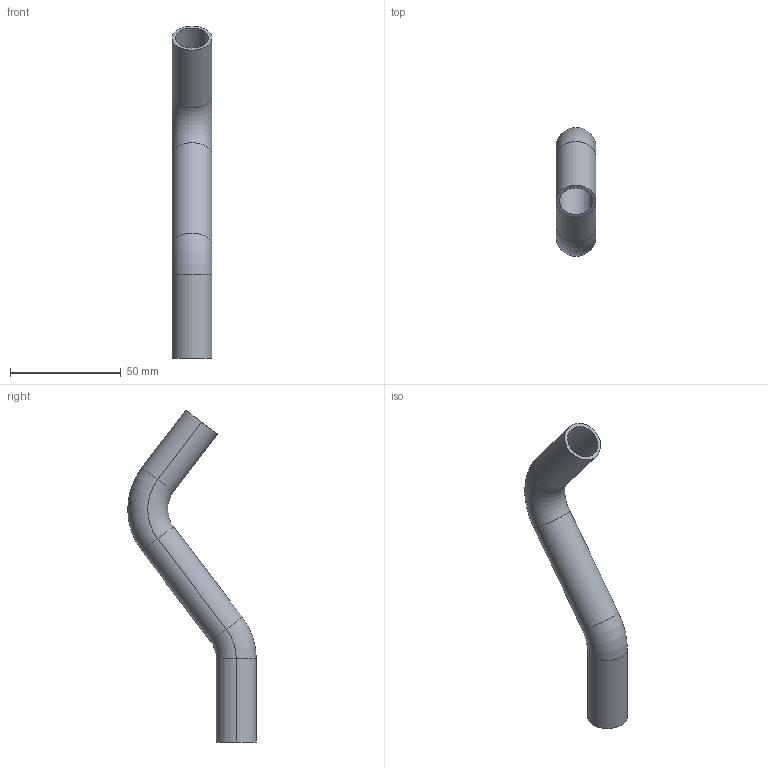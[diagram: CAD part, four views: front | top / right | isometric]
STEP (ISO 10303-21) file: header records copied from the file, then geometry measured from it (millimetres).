
FILE_DESCRIPTION(('OneSpaceDesigner STEP Export'),'2;1');
FILE_NAME('C1417 18x18.stp','2010-06-15T14:38:41',(''),(''),'OneSpace Designer STEP processor for AP214 (Solid Model)','OneSpace Modeling 15.00A 14-Mar-2007 (C) CoCreate Software GmbH','');
FILE_SCHEMA(('AUTOMOTIVE_DESIGN { 1 0 10303 214 1 1 1 1 }'));
Length unit declared in the file: millimetre
Products named in the file (2): C1417_18x18
Assembly tree (1 placements, depth 2):
  C1417_18x18
    C1417_18x18
Bounding box: 18 x 58 x 149.79 mm (x, y, z)
Volume: 12786.1 mm3; surface area: 17203.7 mm2
Topology: 1 solids, 1 shells, 22 faces, 44 edges, 24 vertices
Faces by surface type: cylinder 12, torus 8, plane 2
Entity records: 531 total; most frequent: DIRECTION 88, ORIENTED_EDGE 88, CARTESIAN_POINT 74, EDGE_CURVE 44, AXIS2_PLACEMENT_3D 38, CIRCLE 24, VERTEX_POINT 24, EDGE_LOOP 24
